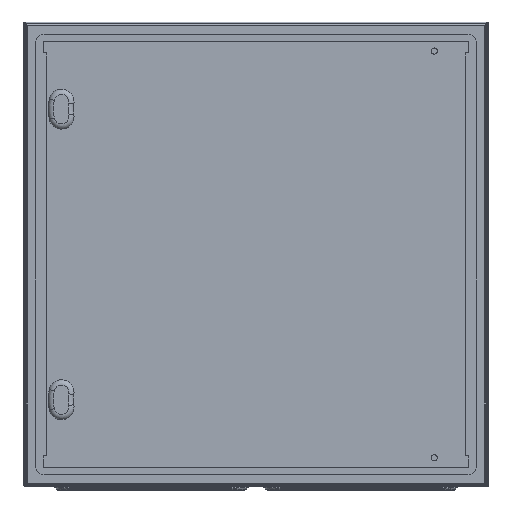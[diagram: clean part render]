
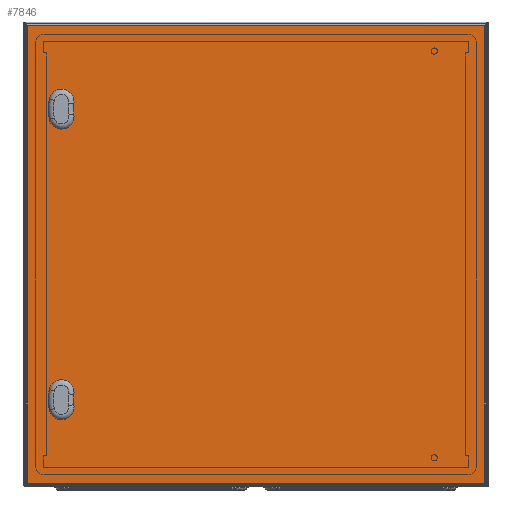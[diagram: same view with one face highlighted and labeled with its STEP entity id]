
A CAD part, front view. The second image highlights one B-rep face of the part: STEP entity #7846.
In plain terms, the highlighted planar face has unit normal (0, -1, 0).
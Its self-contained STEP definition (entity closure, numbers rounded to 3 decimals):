
#572=LINE('',#12744,#1032);
#573=LINE('',#12747,#1033);
#574=LINE('',#12749,#1034);
#575=LINE('',#12751,#1035);
#1032=VECTOR('',#10195,1000.);
#1033=VECTOR('',#10196,1000.);
#1034=VECTOR('',#10197,1000.);
#1035=VECTOR('',#10198,1000.);
#1974=ORIENTED_EDGE('',*,*,#3722,.F.);
#1975=ORIENTED_EDGE('',*,*,#3723,.T.);
#1976=ORIENTED_EDGE('',*,*,#3724,.T.);
#1977=ORIENTED_EDGE('',*,*,#3725,.T.);
#1978=ORIENTED_EDGE('',*,*,#3726,.F.);
#1979=ORIENTED_EDGE('',*,*,#3727,.T.);
#1980=ORIENTED_EDGE('',*,*,#3728,.T.);
#1981=ORIENTED_EDGE('',*,*,#3729,.T.);
#1982=ORIENTED_EDGE('',*,*,#3730,.F.);
#1983=ORIENTED_EDGE('',*,*,#3731,.F.);
#1984=ORIENTED_EDGE('',*,*,#3732,.T.);
#1985=ORIENTED_EDGE('',*,*,#3733,.T.);
#3722=EDGE_CURVE('',#4664,#4665,#5294,.T.);
#3723=EDGE_CURVE('',#4664,#4666,#5295,.T.);
#3724=EDGE_CURVE('',#4666,#4667,#5296,.T.);
#3725=EDGE_CURVE('',#4667,#4665,#5297,.T.);
#3726=EDGE_CURVE('',#4668,#4669,#5298,.T.);
#3727=EDGE_CURVE('',#4668,#4670,#5299,.T.);
#3728=EDGE_CURVE('',#4670,#4671,#5300,.T.);
#3729=EDGE_CURVE('',#4671,#4669,#5301,.T.);
#3730=EDGE_CURVE('',#4672,#4673,#572,.F.);
#3731=EDGE_CURVE('',#4674,#4672,#573,.T.);
#3732=EDGE_CURVE('',#4674,#4675,#574,.F.);
#3733=EDGE_CURVE('',#4675,#4673,#575,.T.);
#4664=VERTEX_POINT('',#12729);
#4665=VERTEX_POINT('',#12730);
#4666=VERTEX_POINT('',#12732);
#4667=VERTEX_POINT('',#12734);
#4668=VERTEX_POINT('',#12737);
#4669=VERTEX_POINT('',#12738);
#4670=VERTEX_POINT('',#12740);
#4671=VERTEX_POINT('',#12742);
#4672=VERTEX_POINT('',#12745);
#4673=VERTEX_POINT('',#12746);
#4674=VERTEX_POINT('',#12748);
#4675=VERTEX_POINT('',#12750);
#5294=CIRCLE('',#8588,34.3);
#5295=CIRCLE('',#8589,16.2);
#5296=CIRCLE('',#8590,60.7);
#5297=CIRCLE('',#8591,16.2);
#5298=CIRCLE('',#8592,34.3);
#5299=CIRCLE('',#8593,16.2);
#5300=CIRCLE('',#8594,60.7);
#5301=CIRCLE('',#8595,16.2);
#5943=EDGE_LOOP('',(#1974,#1975,#1976,#1977));
#5944=EDGE_LOOP('',(#1978,#1979,#1980,#1981));
#5945=EDGE_LOOP('',(#1982,#1983,#1984,#1985));
#6859=FACE_BOUND('',#5943,.T.);
#6860=FACE_BOUND('',#5944,.T.);
#6861=FACE_BOUND('',#5945,.T.);
#7560=PLANE('',#8587);
#7846=ADVANCED_FACE('',(#6859,#6860,#6861),#7560,.F.);
#8587=AXIS2_PLACEMENT_3D('',#12727,#10177,#10178);
#8588=AXIS2_PLACEMENT_3D('',#12728,#10179,#10180);
#8589=AXIS2_PLACEMENT_3D('',#12731,#10181,#10182);
#8590=AXIS2_PLACEMENT_3D('',#12733,#10183,#10184);
#8591=AXIS2_PLACEMENT_3D('',#12735,#10185,#10186);
#8592=AXIS2_PLACEMENT_3D('',#12736,#10187,#10188);
#8593=AXIS2_PLACEMENT_3D('',#12739,#10189,#10190);
#8594=AXIS2_PLACEMENT_3D('',#12741,#10191,#10192);
#8595=AXIS2_PLACEMENT_3D('',#12743,#10193,#10194);
#10177=DIRECTION('',(0.,1.,0.));
#10178=DIRECTION('',(0.,0.,1.));
#10179=DIRECTION('',(0.,1.,0.));
#10180=DIRECTION('',(1.,0.,0.));
#10181=DIRECTION('',(0.,1.,0.));
#10182=DIRECTION('',(1.,0.,0.));
#10183=DIRECTION('',(0.,1.,0.));
#10184=DIRECTION('',(1.,0.,0.));
#10185=DIRECTION('',(0.,1.,0.));
#10186=DIRECTION('',(1.,0.,0.));
#10187=DIRECTION('',(0.,1.,0.));
#10188=DIRECTION('',(1.,0.,0.));
#10189=DIRECTION('',(0.,1.,0.));
#10190=DIRECTION('',(1.,0.,0.));
#10191=DIRECTION('',(0.,1.,0.));
#10192=DIRECTION('',(1.,0.,0.));
#10193=DIRECTION('',(0.,1.,0.));
#10194=DIRECTION('',(1.,0.,0.));
#10195=DIRECTION('',(0.,0.,-1.));
#10196=DIRECTION('',(-1.,0.,0.));
#10197=DIRECTION('',(0.,0.,-1.));
#10198=DIRECTION('',(-1.,0.,0.));
#12727=CARTESIAN_POINT('',(0.,-16.5,0.));
#12728=CARTESIAN_POINT('',(-201.402,-16.5,-187.5));
#12729=CARTESIAN_POINT('',(-235.089,-16.5,-193.952));
#12730=CARTESIAN_POINT('',(-235.089,-16.5,-181.048));
#12731=CARTESIAN_POINT('',(-251.,-16.5,-197.));
#12732=CARTESIAN_POINT('',(-266.827,-16.5,-200.458));
#12733=CARTESIAN_POINT('',(-207.526,-16.5,-187.5));
#12734=CARTESIAN_POINT('',(-266.827,-16.5,-174.542));
#12735=CARTESIAN_POINT('',(-251.,-16.5,-178.));
#12736=CARTESIAN_POINT('',(-201.402,-16.5,187.5));
#12737=CARTESIAN_POINT('',(-235.089,-16.5,181.048));
#12738=CARTESIAN_POINT('',(-235.089,-16.5,193.952));
#12739=CARTESIAN_POINT('',(-251.,-16.5,178.));
#12740=CARTESIAN_POINT('',(-266.827,-16.5,174.542));
#12741=CARTESIAN_POINT('',(-207.526,-16.5,187.5));
#12742=CARTESIAN_POINT('',(-266.827,-16.5,200.458));
#12743=CARTESIAN_POINT('',(-251.,-16.5,197.));
#12744=CARTESIAN_POINT('',(-295.,-16.5,300.));
#12745=CARTESIAN_POINT('',(-295.,-16.5,-295.));
#12746=CARTESIAN_POINT('',(-295.,-16.5,295.));
#12747=CARTESIAN_POINT('',(300.,-16.5,-295.));
#12748=CARTESIAN_POINT('',(295.,-16.5,-295.));
#12749=CARTESIAN_POINT('',(295.,-16.5,300.));
#12750=CARTESIAN_POINT('',(295.,-16.5,295.));
#12751=CARTESIAN_POINT('',(300.,-16.5,295.));
